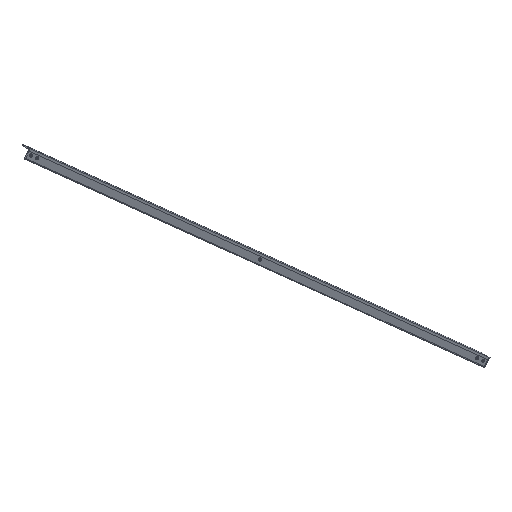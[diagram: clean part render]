
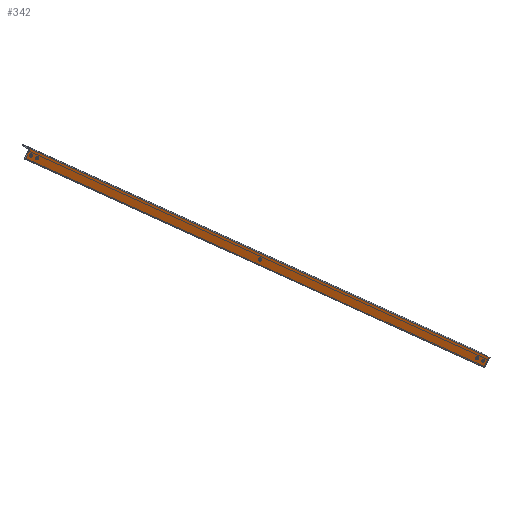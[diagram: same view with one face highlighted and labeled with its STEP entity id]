
A CAD part, isometric view. The second image highlights one B-rep face of the part: STEP entity #342.
In plain terms, the highlighted planar face has unit normal (0, -1, 0).
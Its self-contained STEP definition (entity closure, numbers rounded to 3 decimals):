
#7 = ORIENTED_EDGE ( 'NONE', *, *, #605, .F. ) ;
#10 = DIRECTION ( 'NONE',  ( 1., 0., 0. ) ) ;
#11 = DIRECTION ( 'NONE',  ( 1., 0., 0. ) ) ;
#27 = CIRCLE ( 'NONE', #574, 7. ) ;
#29 = CARTESIAN_POINT ( 'NONE',  ( 1506.901, 3695., 3730.088 ) ) ;
#31 = EDGE_CURVE ( 'NONE', #587, #637, #372, .T. ) ;
#33 = CIRCLE ( 'NONE', #393, 7. ) ;
#42 = AXIS2_PLACEMENT_3D ( 'NONE', #49, #280, #11 ) ;
#45 = FACE_BOUND ( 'NONE', #633, .T. ) ;
#47 = EDGE_CURVE ( 'NONE', #661, #696, #699, .T. ) ;
#49 = CARTESIAN_POINT ( 'NONE',  ( 134.237, 3695., 4950.082 ) ) ;
#50 = DIRECTION ( 'NONE',  ( 0., -1., 0. ) ) ;
#51 = CARTESIAN_POINT ( 'NONE',  ( 134.237, 3695., 4950.082 ) ) ;
#55 = CARTESIAN_POINT ( 'NONE',  ( 89.949, 3695., 4983.392 ) ) ;
#69 = CARTESIAN_POINT ( 'NONE',  ( 127.237, 3695., 4950.082 ) ) ;
#75 = EDGE_LOOP ( 'NONE', ( #129, #160, #726, #578 ) ) ;
#80 = CIRCLE ( 'NONE', #608, 7. ) ;
#86 = LINE ( 'NONE', #147, #657 ) ;
#89 = DIRECTION ( 'NONE',  ( 0.666, 0., 0.746 ) ) ;
#92 = EDGE_CURVE ( 'NONE', #326, #465, #300, .T. ) ;
#96 = DIRECTION ( 'NONE',  ( 1., 0., 0. ) ) ;
#106 = CARTESIAN_POINT ( 'NONE',  ( 2821.475, 3695., 2543.229 ) ) ;
#109 = EDGE_CURVE ( 'NONE', #637, #587, #392, .T. ) ;
#113 = CARTESIAN_POINT ( 'NONE',  ( 2828.475, 3695., 2543.229 ) ) ;
#114 = AXIS2_PLACEMENT_3D ( 'NONE', #113, #577, #735 ) ;
#127 = VECTOR ( 'NONE', #89, 1000. ) ;
#129 = ORIENTED_EDGE ( 'NONE', *, *, #47, .T. ) ;
#131 = DIRECTION ( 'NONE',  ( 0.746, 0., -0.666 ) ) ;
#139 = VERTEX_POINT ( 'NONE', #740 ) ;
#143 = EDGE_CURVE ( 'NONE', #465, #326, #80, .T. ) ;
#144 = DIRECTION ( 'NONE',  ( -1., 0., 0. ) ) ;
#147 = CARTESIAN_POINT ( 'NONE',  ( 57.921, 3695., 4984.735 ) ) ;
#149 = DIRECTION ( 'NONE',  ( 0., -1., 0. ) ) ;
#152 = CARTESIAN_POINT ( 'NONE',  ( 91.231, 3695., 5022.023 ) ) ;
#154 = EDGE_CURVE ( 'NONE', #538, #552, #475, .T. ) ;
#160 = ORIENTED_EDGE ( 'NONE', *, *, #618, .F. ) ;
#175 = CIRCLE ( 'NONE', #524, 7. ) ;
#181 = ORIENTED_EDGE ( 'NONE', *, *, #724, .F. ) ;
#197 = VECTOR ( 'NONE', #131, 1000. ) ;
#204 = DIRECTION ( 'NONE',  ( 0., 1., 0. ) ) ;
#205 = CARTESIAN_POINT ( 'NONE',  ( 2904.791, 3695., 2508.576 ) ) ;
#212 = PLANE ( 'NONE',  #546 ) ;
#213 = ORIENTED_EDGE ( 'NONE', *, *, #154, .F. ) ;
#216 = CARTESIAN_POINT ( 'NONE',  ( 91.231, 3695., 5022.023 ) ) ;
#218 = ORIENTED_EDGE ( 'NONE', *, *, #143, .F. ) ;
#232 = EDGE_LOOP ( 'NONE', ( #414, #403 ) ) ;
#238 = CIRCLE ( 'NONE', #395, 7. ) ;
#240 = CARTESIAN_POINT ( 'NONE',  ( 2904.791, 3695., 2508.576 ) ) ;
#250 = CARTESIAN_POINT ( 'NONE',  ( 2865.763, 3695., 2509.918 ) ) ;
#253 = VERTEX_POINT ( 'NONE', #382 ) ;
#256 = DIRECTION ( 'NONE',  ( 0., -1., 0. ) ) ;
#259 = DIRECTION ( 'NONE',  ( 1., 0., 0. ) ) ;
#275 = FACE_BOUND ( 'NONE', #232, .T. ) ;
#280 = DIRECTION ( 'NONE',  ( 0., -1., 0. ) ) ;
#292 = VERTEX_POINT ( 'NONE', #380 ) ;
#293 = EDGE_CURVE ( 'NONE', #292, #343, #606, .T. ) ;
#300 = CIRCLE ( 'NONE', #114, 7. ) ;
#311 = DIRECTION ( 'NONE',  ( 1., 0., 0. ) ) ;
#326 = VERTEX_POINT ( 'NONE', #504 ) ;
#328 = CARTESIAN_POINT ( 'NONE',  ( 2872.763, 3695., 2509.918 ) ) ;
#331 = EDGE_CURVE ( 'NONE', #253, #410, #33, .T. ) ;
#332 = DIRECTION ( 'NONE',  ( 1., 0., 0. ) ) ;
#342 = ADVANCED_FACE ( 'NONE', ( #736, #45, #275, #500, #547, #732 ), #212, .F. ) ;
#343 = VERTEX_POINT ( 'NONE', #390 ) ;
#347 = VERTEX_POINT ( 'NONE', #328 ) ;
#348 = CARTESIAN_POINT ( 'NONE',  ( 1499.901, 3695., 3730.088 ) ) ;
#369 = CARTESIAN_POINT ( 'NONE',  ( 1499.901, 3695., 3730.088 ) ) ;
#372 = CIRCLE ( 'NONE', #42, 7. ) ;
#374 = AXIS2_PLACEMENT_3D ( 'NONE', #616, #492, #96 ) ;
#380 = CARTESIAN_POINT ( 'NONE',  ( 57.921, 3695., 4984.735 ) ) ;
#382 = CARTESIAN_POINT ( 'NONE',  ( 103.949, 3695., 4983.392 ) ) ;
#384 = DIRECTION ( 'NONE',  ( 1., 0., 0. ) ) ;
#388 = DIRECTION ( 'NONE',  ( 1., 0., 0. ) ) ;
#390 = CARTESIAN_POINT ( 'NONE',  ( 91.231, 3695., 5022.023 ) ) ;
#392 = CIRCLE ( 'NONE', #571, 7. ) ;
#393 = AXIS2_PLACEMENT_3D ( 'NONE', #495, #149, #388 ) ;
#395 = AXIS2_PLACEMENT_3D ( 'NONE', #662, #602, #384 ) ;
#399 = ORIENTED_EDGE ( 'NONE', *, *, #331, .F. ) ;
#403 = ORIENTED_EDGE ( 'NONE', *, *, #109, .F. ) ;
#410 = VERTEX_POINT ( 'NONE', #55 ) ;
#414 = ORIENTED_EDGE ( 'NONE', *, *, #31, .F. ) ;
#431 = EDGE_LOOP ( 'NONE', ( #399, #607 ) ) ;
#433 = VECTOR ( 'NONE', #469, 1000. ) ;
#452 = EDGE_CURVE ( 'NONE', #552, #538, #175, .T. ) ;
#464 = ORIENTED_EDGE ( 'NONE', *, *, #92, .F. ) ;
#465 = VERTEX_POINT ( 'NONE', #106 ) ;
#469 = DIRECTION ( 'NONE',  ( 0.666, 0., 0.746 ) ) ;
#475 = CIRCLE ( 'NONE', #599, 7. ) ;
#492 = DIRECTION ( 'NONE',  ( 0., -1., 0. ) ) ;
#495 = CARTESIAN_POINT ( 'NONE',  ( 96.949, 3695., 4983.392 ) ) ;
#500 = FACE_BOUND ( 'NONE', #431, .T. ) ;
#504 = CARTESIAN_POINT ( 'NONE',  ( 2835.475, 3695., 2543.229 ) ) ;
#524 = AXIS2_PLACEMENT_3D ( 'NONE', #348, #50, #10 ) ;
#528 = CARTESIAN_POINT ( 'NONE',  ( 91.231, 3695., 5022.023 ) ) ;
#530 = LINE ( 'NONE', #528, #197 ) ;
#534 = CARTESIAN_POINT ( 'NONE',  ( 2871.48, 3695., 2471.288 ) ) ;
#538 = VERTEX_POINT ( 'NONE', #739 ) ;
#541 = DIRECTION ( 'NONE',  ( 0., -1., 0. ) ) ;
#543 = DIRECTION ( 'NONE',  ( 0.746, 0., -0.666 ) ) ;
#546 = AXIS2_PLACEMENT_3D ( 'NONE', #152, #204, #144 ) ;
#547 = FACE_BOUND ( 'NONE', #703, .T. ) ;
#552 = VERTEX_POINT ( 'NONE', #29 ) ;
#571 = AXIS2_PLACEMENT_3D ( 'NONE', #51, #620, #332 ) ;
#574 = AXIS2_PLACEMENT_3D ( 'NONE', #250, #592, #311 ) ;
#577 = DIRECTION ( 'NONE',  ( 0., -1., 0. ) ) ;
#578 = ORIENTED_EDGE ( 'NONE', *, *, #728, .T. ) ;
#587 = VERTEX_POINT ( 'NONE', #655 ) ;
#592 = DIRECTION ( 'NONE',  ( 0., -1., 0. ) ) ;
#594 = ORIENTED_EDGE ( 'NONE', *, *, #452, .F. ) ;
#599 = AXIS2_PLACEMENT_3D ( 'NONE', #369, #541, #259 ) ;
#600 = CARTESIAN_POINT ( 'NONE',  ( 2828.475, 3695., 2543.229 ) ) ;
#602 = DIRECTION ( 'NONE',  ( 0., -1., 0. ) ) ;
#605 = EDGE_CURVE ( 'NONE', #347, #139, #27, .T. ) ;
#606 = LINE ( 'NONE', #216, #127 ) ;
#607 = ORIENTED_EDGE ( 'NONE', *, *, #709, .F. ) ;
#608 = AXIS2_PLACEMENT_3D ( 'NONE', #600, #256, #713 ) ;
#616 = CARTESIAN_POINT ( 'NONE',  ( 96.949, 3695., 4983.392 ) ) ;
#618 = EDGE_CURVE ( 'NONE', #343, #696, #530, .T. ) ;
#620 = DIRECTION ( 'NONE',  ( 0., -1., 0. ) ) ;
#633 = EDGE_LOOP ( 'NONE', ( #594, #213 ) ) ;
#637 = VERTEX_POINT ( 'NONE', #69 ) ;
#655 = CARTESIAN_POINT ( 'NONE',  ( 141.237, 3695., 4950.082 ) ) ;
#657 = VECTOR ( 'NONE', #543, 1000. ) ;
#661 = VERTEX_POINT ( 'NONE', #534 ) ;
#662 = CARTESIAN_POINT ( 'NONE',  ( 2865.763, 3695., 2509.918 ) ) ;
#695 = CIRCLE ( 'NONE', #374, 7. ) ;
#696 = VERTEX_POINT ( 'NONE', #205 ) ;
#699 = LINE ( 'NONE', #240, #433 ) ;
#703 = EDGE_LOOP ( 'NONE', ( #464, #218 ) ) ;
#709 = EDGE_CURVE ( 'NONE', #410, #253, #695, .T. ) ;
#713 = DIRECTION ( 'NONE',  ( 1., 0., 0. ) ) ;
#718 = EDGE_LOOP ( 'NONE', ( #7, #181 ) ) ;
#724 = EDGE_CURVE ( 'NONE', #139, #347, #238, .T. ) ;
#726 = ORIENTED_EDGE ( 'NONE', *, *, #293, .F. ) ;
#728 = EDGE_CURVE ( 'NONE', #292, #661, #86, .T. ) ;
#732 = FACE_OUTER_BOUND ( 'NONE', #75, .T. ) ;
#735 = DIRECTION ( 'NONE',  ( 1., 0., 0. ) ) ;
#736 = FACE_BOUND ( 'NONE', #718, .T. ) ;
#739 = CARTESIAN_POINT ( 'NONE',  ( 1492.901, 3695., 3730.088 ) ) ;
#740 = CARTESIAN_POINT ( 'NONE',  ( 2858.763, 3695., 2509.918 ) ) ;
